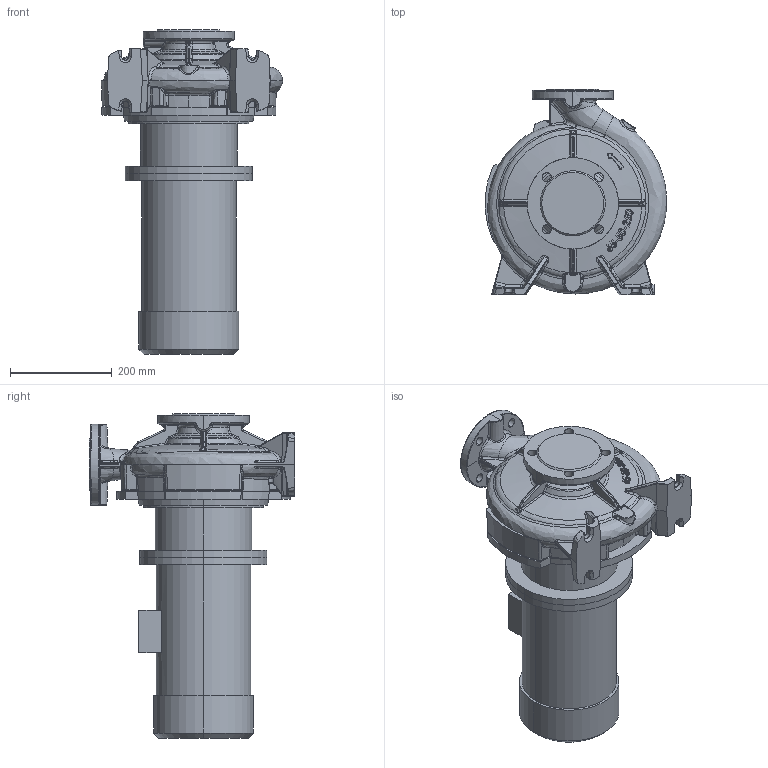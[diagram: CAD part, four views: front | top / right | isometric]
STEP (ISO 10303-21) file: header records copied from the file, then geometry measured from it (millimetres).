
FILE_DESCRIPTION (( 'STEP AP214' ), '1' );
FILE_NAME ('KRM 65-50-250-4-3.STEP', '2026-04-24T13:48:06', ( '' ), ( '' ), 'SwSTEP 2.0', 'SolidWorks 2016', '' );
FILE_SCHEMA (( 'AUTOMOTIVE_DESIGN' ));
Length unit declared in the file: millimetre
Products named in the file (1): KRM 65-50-250-4-3
Bounding box: 356.82 x 405 x 638 mm (x, y, z)
Volume: 26949974.9 mm3; surface area: 1246854.7 mm2
Topology: 4 solids, 4 shells, 1145 faces, 2766 edges, 1635 vertices
Faces by surface type: bspline 550, cylinder 216, plane 196, torus 83, cone 83, sphere 17
Entity records: 84845 total; most frequent: CARTESIAN_POINT 50200, ORIENTED_EDGE 5478, DIRECTION 3406, EDGE_CURVE 2739, VERTEX_POINT 1635, AXIS2_PLACEMENT_3D 1421, EDGE_LOOP 1194, UNCERTAINTY_MEASURE_WITH_UNIT 1151
